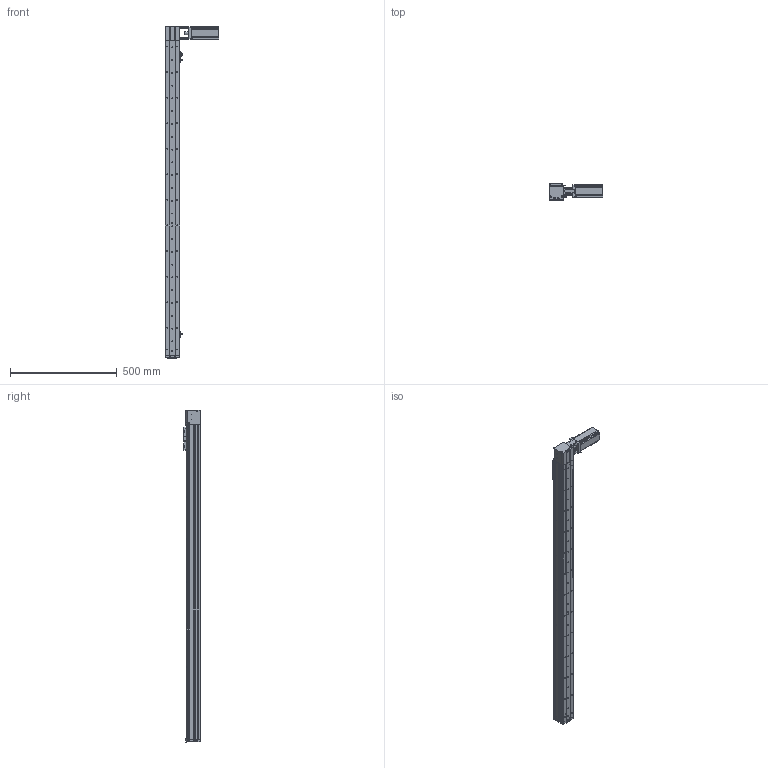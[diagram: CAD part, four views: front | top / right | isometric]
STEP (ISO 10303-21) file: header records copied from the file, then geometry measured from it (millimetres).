
FILE_DESCRIPTION (( 'STEP AP214' ), '1' );
FILE_NAME ('KSD68BS-S1300-MRT-CR.STEP', '2019-08-27T07:25:45', ( '微软用户' ), ( '微软中国' ), 'SwSTEP 2.0', 'SolidWorks 2014', '' );
FILE_SCHEMA (( 'AUTOMOTIVE_DESIGN' ));
Length unit declared in the file: millimetre
Products named in the file (13): KSD68BS-S1300-MRT-CR; KSD68BS 1300行程底板全封闭; 台达ECMA－C20604AS伺服电机（400W); U倰嫖萇EEㄜSX672; 感应片68宽全封闭; 68单导轨全封闭同步带安装板; 68单导轨全封闭同步带电机座左; 68宽单导轨全封闭同步带端板; KSD68BS 1300行程侧板全封闭; 68宽单导轨全封闭丝杆传动安装板1防护罩; 68遵裔啣揤啣1; KSD68BS 1300行程盖板全封闭; 100遵鎮湛假蚾啣1
Assembly tree (16 placements, depth 2):
  KSD68BS-S1300-MRT-CR
    KSD68BS 1300行程底板全封闭
    台达ECMA－C20604AS伺服电机（400W)
    U倰嫖萇EEㄜSX672  x3
    感应片68宽全封闭
    68单导轨全封闭同步带安装板
    68单导轨全封闭同步带电机座左
    68宽单导轨全封闭同步带端板
    KSD68BS 1300行程侧板全封闭  x2
    68宽单导轨全封闭丝杆传动安装板1防护罩
    68遵裔啣揤啣1  x2
    KSD68BS 1300行程盖板全封闭
    100遵鎮湛假蚾啣1
Bounding box: 252.7 x 77 x 1558.1 mm (x, y, z)
Volume: 2888860.7 mm3; surface area: 1124725.9 mm2
Topology: 17 solids, 17 shells, 1513 faces, 4342 edges, 2766 vertices
Faces by surface type: cylinder 731, plane 602, cone 180
Entity records: 48906 total; most frequent: CARTESIAN_POINT 8483, DIRECTION 7221, ORIENTED_EDGE 6912, EDGE_CURVE 3456, AXIS2_PLACEMENT_3D 2628, VERTEX_POINT 2264, LINE 1965, VECTOR 1965
